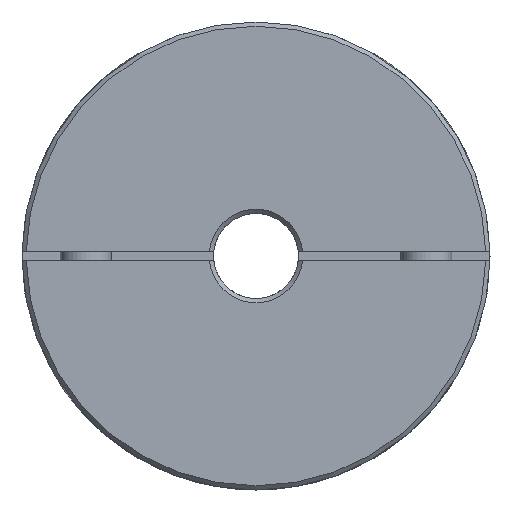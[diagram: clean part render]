
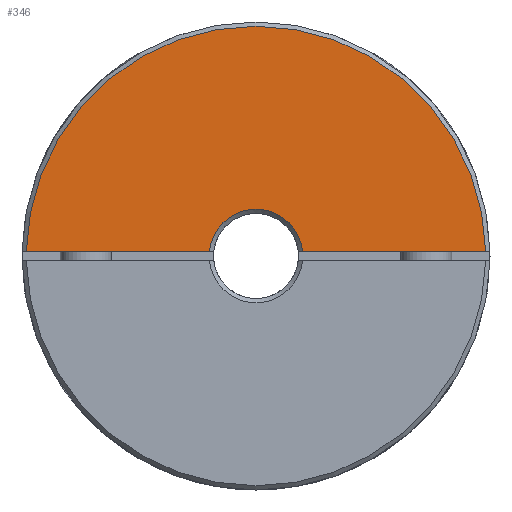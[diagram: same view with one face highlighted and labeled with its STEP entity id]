
A CAD part, left-side view. The second image highlights one B-rep face of the part: STEP entity #346.
In plain terms, the highlighted planar face has unit normal (-1, 0, 0) as drawn and (1, 0, 0) by its records, which use the part's own axes.
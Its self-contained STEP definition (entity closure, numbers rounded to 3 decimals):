
#346 = ADVANCED_FACE( '', ( #694 ), #695, .T. );
#694 = FACE_OUTER_BOUND( '', #1119, .T. );
#695 = PLANE( '', #1120 );
#1119 = EDGE_LOOP( '', ( #1653, #1654, #1655, #1656 ) );
#1120 = AXIS2_PLACEMENT_3D( '', #1657, #1658, #1659 );
#1653 = ORIENTED_EDGE( '', *, *, #2301, .F. );
#1654 = ORIENTED_EDGE( '', *, *, #2290, .T. );
#1655 = ORIENTED_EDGE( '', *, *, #2282, .F. );
#1656 = ORIENTED_EDGE( '', *, *, #2198, .T. );
#1657 = CARTESIAN_POINT( '', ( 31.5, 0., 55. ) );
#1658 = DIRECTION( '', ( 1., 0., 0. ) );
#1659 = DIRECTION( '', ( 0., 0., -1. ) );
#2198 = EDGE_CURVE( '', #2499, #2503, #2505, .F. );
#2282 = EDGE_CURVE( '', #2499, #2642, #2643, .T. );
#2290 = EDGE_CURVE( '', #2654, #2642, #2655, .T. );
#2301 = EDGE_CURVE( '', #2654, #2503, #2670, .T. );
#2499 = VERTEX_POINT( '', #3121 );
#2503 = VERTEX_POINT( '', #3128 );
#2505 = CIRCLE( '', #3133, 11. );
#2642 = VERTEX_POINT( '', #3708 );
#2643 = LINE( '', #3709, #3710 );
#2654 = VERTEX_POINT( '', #3726 );
#2655 = CIRCLE( '', #3727, 54. );
#2670 = LINE( '', #3750, #3751 );
#3121 = CARTESIAN_POINT( '', ( 31.5, -10.954, 1. ) );
#3128 = CARTESIAN_POINT( '', ( 31.5, 10.954, 1. ) );
#3133 = AXIS2_PLACEMENT_3D( '', #4144, #4145, #4146 );
#3708 = CARTESIAN_POINT( '', ( 31.5, -53.991, 1. ) );
#3709 = CARTESIAN_POINT( '', ( 31.5, 0., 1. ) );
#3710 = VECTOR( '', #4258, 1000. );
#3726 = CARTESIAN_POINT( '', ( 31.5, 53.991, 1. ) );
#3727 = AXIS2_PLACEMENT_3D( '', #4267, #4268, #4269 );
#3750 = CARTESIAN_POINT( '', ( 31.5, 0., 1. ) );
#3751 = VECTOR( '', #4278, 1000. );
#4144 = CARTESIAN_POINT( '', ( 31.5, 0., 0. ) );
#4145 = DIRECTION( '', ( 1., 0., 0. ) );
#4146 = DIRECTION( '', ( 0., 0., -1. ) );
#4258 = DIRECTION( '', ( 0., -1., 0. ) );
#4267 = CARTESIAN_POINT( '', ( 31.5, 0., 0. ) );
#4268 = DIRECTION( '', ( 1., 0., 0. ) );
#4269 = DIRECTION( '', ( 0., 0., -1. ) );
#4278 = DIRECTION( '', ( 0., -1., 0. ) );
